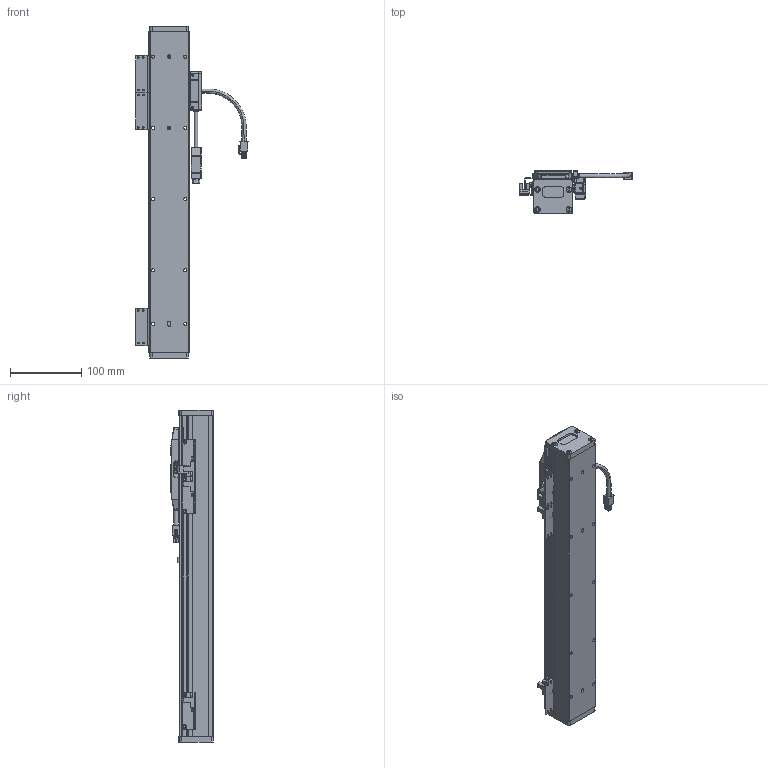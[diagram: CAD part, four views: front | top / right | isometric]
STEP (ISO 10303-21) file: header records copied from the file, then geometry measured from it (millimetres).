
FILE_DESCRIPTION(('Open CASCADE Model'),'2;1');
FILE_NAME('Open CASCADE Shape Model','2025-11-07T00:44:55',('Author'),( 'Open CASCADE'),'Open CASCADE STEP processor 7.6','Open CASCADE 7.6' ,'Unknown');
FILE_SCHEMA(('AUTOMOTIVE_DESIGN { 1 0 10303 214 1 1 1 1 }'));
Length unit declared in the file: millimetre
Products named in the file (25): Open CASCADE STEP translator 7.6 184; Open CASCADE STEP translator 7.6 184.1; Open CASCADE STEP translator 7.6 184.2; Open CASCADE STEP translator 7.6 184.3; Open CASCADE STEP translator 7.6 184.4; Open CASCADE STEP translator 7.6 184.5; Open CASCADE STEP translator 7.6 184.6; Open CASCADE STEP translator 7.6 184.7; Open CASCADE STEP translator 7.6 184.8; Open CASCADE STEP translator 7.6 184.9; Open CASCADE STEP translator 7.6 184.10; Open CASCADE STEP translator 7.6 184.11; Open CASCADE STEP translator 7.6 184.12; Open CASCADE STEP translator 7.6 184.13; Open CASCADE STEP translator 7.6 184.14; Open CASCADE STEP translator 7.6 184.14.1; Open CASCADE STEP translator 7.6 184.14.1.1; Open CASCADE STEP translator 7.6 184.14.1.2; Open CASCADE STEP translator 7.6 184.14.1.3; Open CASCADE STEP translator 7.6 184.14.1.4; Open CASCADE STEP translator 7.6 184.14.1.5; Open CASCADE STEP translator 7.6 184.15; Open CASCADE STEP translator 7.6 184.16; Open CASCADE STEP translator 7.6 184.17; Open CASCADE STEP translator 7.6 184.18
Assembly tree (24 placements, depth 4):
  Open CASCADE STEP translator 7.6 184
    Open CASCADE STEP translator 7.6 184.1
    Open CASCADE STEP translator 7.6 184.2
    Open CASCADE STEP translator 7.6 184.3
    Open CASCADE STEP translator 7.6 184.4
    Open CASCADE STEP translator 7.6 184.5
    Open CASCADE STEP translator 7.6 184.6
    Open CASCADE STEP translator 7.6 184.7
    Open CASCADE STEP translator 7.6 184.8
    Open CASCADE STEP translator 7.6 184.9
    Open CASCADE STEP translator 7.6 184.10
    Open CASCADE STEP translator 7.6 184.11
    Open CASCADE STEP translator 7.6 184.12
    Open CASCADE STEP translator 7.6 184.13
    Open CASCADE STEP translator 7.6 184.14
      Open CASCADE STEP translator 7.6 184.14.1
        Open CASCADE STEP translator 7.6 184.14.1.1
        Open CASCADE STEP translator 7.6 184.14.1.2
        Open CASCADE STEP translator 7.6 184.14.1.3
        Open CASCADE STEP translator 7.6 184.14.1.4
        Open CASCADE STEP translator 7.6 184.14.1.5
    Open CASCADE STEP translator 7.6 184.15
    Open CASCADE STEP translator 7.6 184.16
    Open CASCADE STEP translator 7.6 184.17
    Open CASCADE STEP translator 7.6 184.18
Bounding box: 158 x 60 x 466 mm (x, y, z)
Volume: 1293576.4 mm3; surface area: 204883.4 mm2
Topology: 22 solids, 23 shells, 1859 faces, 4641 edges, 2936 vertices
Faces by surface type: plane 975, cylinder 672, bspline 112, cone 84, torus 16
Entity records: 142550 total; most frequent: CARTESIAN_POINT 51401, DIRECTION 16662, LINE 10279, VECTOR 10279, ORIENTED_EDGE 9148, PCURVE 9148, DEFINITIONAL_REPRESENTATION 9148, EDGE_CURVE 4574
